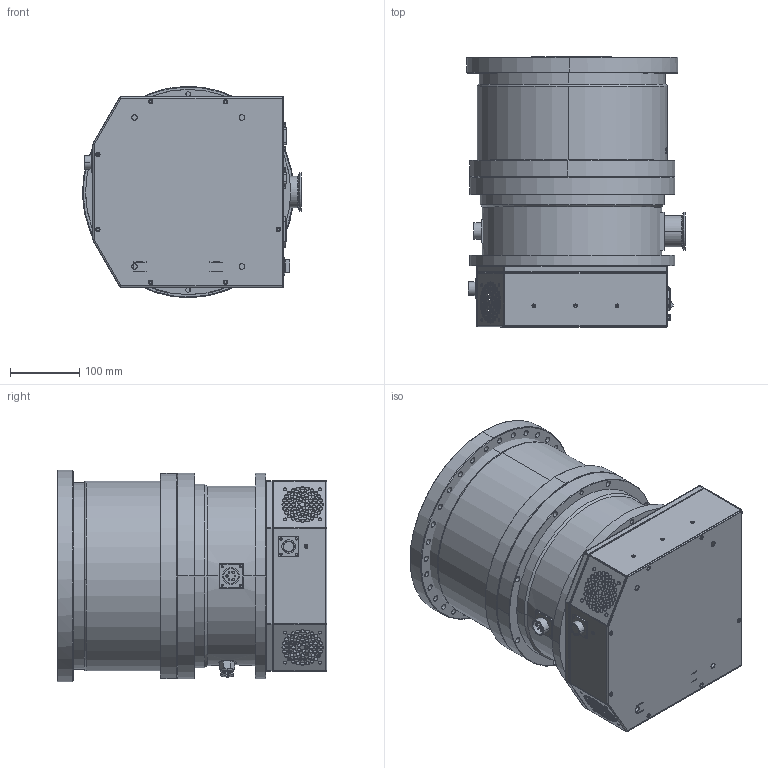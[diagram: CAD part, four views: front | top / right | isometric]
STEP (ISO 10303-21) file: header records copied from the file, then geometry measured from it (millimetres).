
FILE_DESCRIPTION (( 'STEP AP203' ), '1' );
FILE_NAME ('JTFB-2000萇埭珨极儂-CF絮諳.STEP', '2025-03-31T10:54:57', ( 'User' ), ( 'China' ), 'SwSTEP 2.0', 'SolidWorks 2016', '' );
FILE_SCHEMA (( 'CONFIG_CONTROL_DESIGN' ));
Length unit declared in the file: millimetre
Products named in the file (13): 电源接头SLJQ八角电源同步电机; JTFB2000DZ-01-01-01AFLDK; 水嘴SLJQ八角电源同步电机; JTFB1600D-18-01-01FLDK; SJJTB-600-0222肮祭萇儂; JTFB2000DZ-01-01-00AFLDK; MPPD-BR3-JT 壅怍唳 蚾饜极; JTFB1600J-18-02FLDK; JTFB-2000萇埭珨极儂-CF絮諳; JTFB2000DZ-01-00AFLDK; JTFB2000Z-04A八角电源同步电机; JTFB2000Z-04NSLJQ八角电源同步电机; JTFB1300Z-04ASLJQ八角电源同步电机
Assembly tree (13 placements, depth 4):
  JTFB-2000萇埭珨极儂-CF絮諳
    JTFB2000DZ-01-00AFLDK
      JTFB2000DZ-01-01-00AFLDK
        JTFB2000DZ-01-01-01AFLDK
        JTFB1600D-18-01-01FLDK
      JTFB1600J-18-02FLDK
    JTFB2000Z-04A八角电源同步电机
    JTFB2000Z-04NSLJQ八角电源同步电机
    JTFB1300Z-04ASLJQ八角电源同步电机
    电源接头SLJQ八角电源同步电机
    水嘴SLJQ八角电源同步电机  x2
    SJJTB-600-0222肮祭萇儂
    MPPD-BR3-JT 壅怍唳 蚾饜极
Bounding box: 315.94 x 389.06 x 304.88 mm (x, y, z)
Volume: 18050622.2 mm3; surface area: 1415167.9 mm2
Topology: 10 solids, 181 shells, 1722 faces, 5570 edges, 4035 vertices
Faces by surface type: cylinder 842, plane 462, cone 249, bspline 167, torus 2
Entity records: 118600 total; most frequent: CARTESIAN_POINT 71828, ORIENTED_EDGE 9282, DIRECTION 7871, EDGE_CURVE 5430, VERTEX_POINT 3977, AXIS2_PLACEMENT_3D 2851, EDGE_LOOP 2439, LINE 2169
